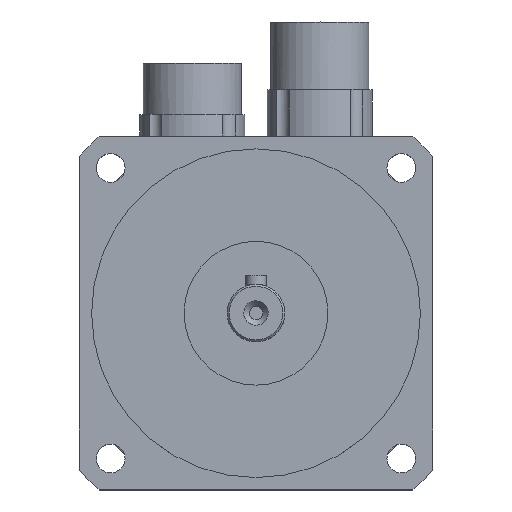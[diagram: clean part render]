
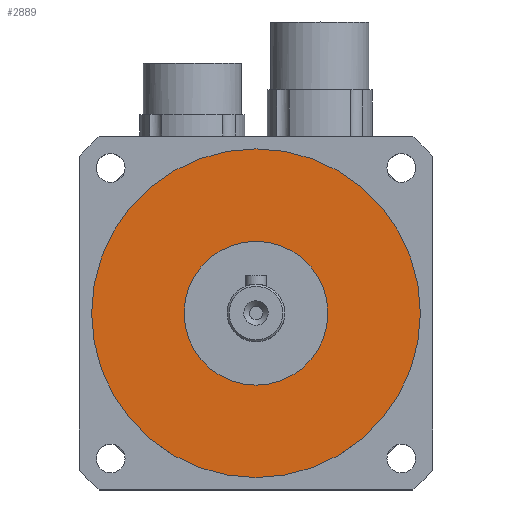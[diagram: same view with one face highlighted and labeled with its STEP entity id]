
A CAD part, top view. The second image highlights one B-rep face of the part: STEP entity #2889.
In plain terms, the highlighted planar face has unit normal (0, 0, 1).
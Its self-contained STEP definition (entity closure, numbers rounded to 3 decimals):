
#212=PLANE('',#3072);
#297=CIRCLE('',#3067,17.5);
#298=CIRCLE('',#3070,40.);
#958=VERTEX_POINT('',#4910);
#959=VERTEX_POINT('',#4914);
#1279=EDGE_CURVE('',#958,#958,#297,.T.);
#1280=EDGE_CURVE('',#959,#959,#298,.T.);
#1743=ORIENTED_EDGE('',*,*,#1280,.F.);
#1744=ORIENTED_EDGE('',*,*,#1279,.T.);
#2442=EDGE_LOOP('',(#1743));
#2443=EDGE_LOOP('',(#1744));
#2672=FACE_BOUND('',#2442,.T.);
#2673=FACE_BOUND('',#2443,.T.);
#2889=ADVANCED_FACE('',(#2672,#2673),#212,.F.);
#3067=AXIS2_PLACEMENT_3D('',#4909,#3483,#3484);
#3070=AXIS2_PLACEMENT_3D('',#4913,#3488,#3489);
#3072=AXIS2_PLACEMENT_3D('',#4917,#3492,$);
#3483=DIRECTION('',(0.,0.,-1.));
#3484=DIRECTION('',(-17.5,0.,0.));
#3488=DIRECTION('',(0.,0.,-1.));
#3489=DIRECTION('',(-40.,0.,0.));
#3492=DIRECTION('',(0.,0.,-1.));
#4909=CARTESIAN_POINT('',(0.,0.,177.));
#4910=CARTESIAN_POINT('',(17.5,0.,177.));
#4913=CARTESIAN_POINT('',(0.,0.,177.));
#4914=CARTESIAN_POINT('',(40.,0.,177.));
#4917=CARTESIAN_POINT('',(0.,0.,177.));
